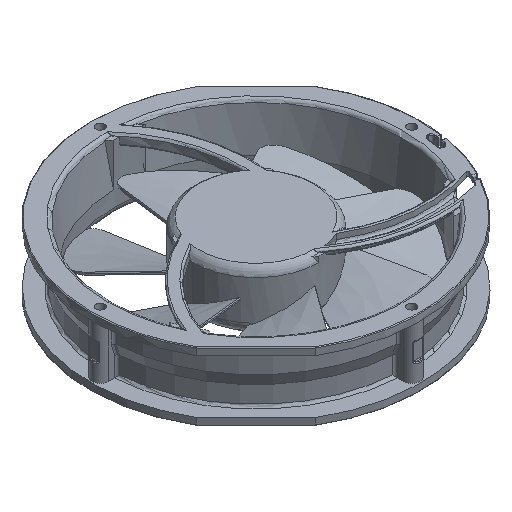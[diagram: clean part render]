
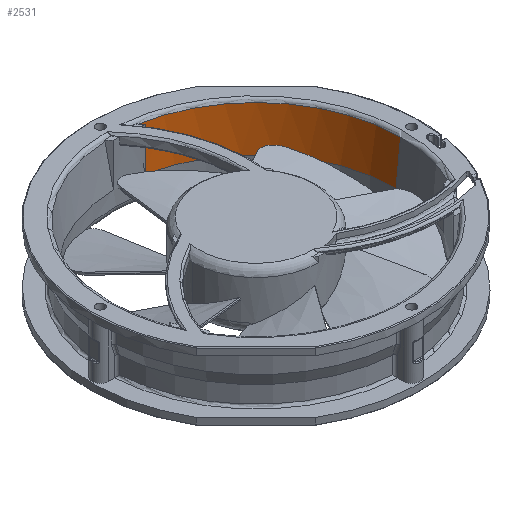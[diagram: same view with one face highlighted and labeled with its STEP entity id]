
A CAD part, isometric view. The second image highlights one B-rep face of the part: STEP entity #2531.
In plain terms, the highlighted conical face has half-angle 6.137 degrees and reference radius 59.5 mm.
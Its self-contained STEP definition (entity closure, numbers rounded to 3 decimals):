
#453 = ORIENTED_EDGE ( 'NONE', *, *, #14375, .T. ) ;
#1153 = DIRECTION ( 'NONE',  ( 1., 0., 0. ) ) ;
#1619 = VERTEX_POINT ( 'NONE', #15081 ) ;
#2531 = ADVANCED_FACE ( 'NONE', ( #14481 ), #6828, .F. ) ;
#3032 = DIRECTION ( 'NONE',  ( 1., 0., 0. ) ) ;
#3511 = CARTESIAN_POINT ( 'NONE',  ( 59.5, 0., 0. ) ) ;
#3607 = CARTESIAN_POINT ( 'NONE',  ( 9.942, 57.893, -7.093 ) ) ;
#4483 = VERTEX_POINT ( 'NONE', #9635 ) ;
#5710 = AXIS2_PLACEMENT_3D ( 'NONE', #6418, #15899, #7781 ) ;
#6187 = ORIENTED_EDGE ( 'NONE', *, *, #10264, .F. ) ;
#6264 = CARTESIAN_POINT ( 'NONE',  ( 10.902, 56.457, -18.6 ) ) ;
#6418 = CARTESIAN_POINT ( 'NONE',  ( 0., 0., -1.34 ) ) ;
#6828 = CONICAL_SURFACE ( 'NONE', #14829, 59.5, 0.107 ) ;
#7390 = DIRECTION ( 'NONE',  ( 0.107, 0., 0.994 ) ) ;
#7781 = DIRECTION ( 'NONE',  ( -1., 0., 0. ) ) ;
#7887 = VERTEX_POINT ( 'NONE', #8582 ) ;
#8582 = CARTESIAN_POINT ( 'NONE',  ( 10.902, 56.457, -18.6 ) ) ;
#8665 = VERTEX_POINT ( 'NONE', #10158 ) ;
#9269 = DIRECTION ( 'NONE',  ( 0., 0., 1. ) ) ;
#9505 = VECTOR ( 'NONE', #7390, 1000. ) ;
#9635 = CARTESIAN_POINT ( 'NONE',  ( 57.5, 0., -18.6 ) ) ;
#9809 = CARTESIAN_POINT ( 'NONE',  ( 0., 0., 0. ) ) ;
#10158 = CARTESIAN_POINT ( 'NONE',  ( 9.438, 58.601, -1.34 ) ) ;
#10264 = EDGE_CURVE ( 'NONE', #7887, #8665, #17128, .T. ) ;
#10383 = CARTESIAN_POINT ( 'NONE',  ( 10.43, 57.178, -12.846 ) ) ;
#11696 = ORIENTED_EDGE ( 'NONE', *, *, #17326, .F. ) ;
#11831 = CIRCLE ( 'NONE', #13262, 57.5 ) ;
#13086 = CARTESIAN_POINT ( 'NONE',  ( 9.438, 58.601, -1.34 ) ) ;
#13197 = ORIENTED_EDGE ( 'NONE', *, *, #17216, .T. ) ;
#13262 = AXIS2_PLACEMENT_3D ( 'NONE', #17379, #9269, #1153 ) ;
#14375 = EDGE_CURVE ( 'NONE', #1619, #8665, #15430, .T. ) ;
#14481 = FACE_OUTER_BOUND ( 'NONE', #15994, .T. ) ;
#14829 = AXIS2_PLACEMENT_3D ( 'NONE', #9809, #16613, #3032 ) ;
#15081 = CARTESIAN_POINT ( 'NONE',  ( 59.356, 0., -1.34 ) ) ;
#15430 = CIRCLE ( 'NONE', #5710, 59.356 ) ;
#15899 = DIRECTION ( 'NONE',  ( 0., 0., 1. ) ) ;
#15994 = EDGE_LOOP ( 'NONE', ( #11696, #13197, #453, #6187 ) ) ;
#16270 = LINE ( 'NONE', #3511, #9505 ) ;
#16613 = DIRECTION ( 'NONE',  ( 0., 0., 1. ) ) ;
#17128 = B_SPLINE_CURVE_WITH_KNOTS ( 'NONE', 3,
 ( #6264, #10383, #3607, #13086 ),
 .UNSPECIFIED., .F., .F.,
 ( 4, 4 ),
 ( 0., 0.017 ),
 .UNSPECIFIED. ) ;
#17216 = EDGE_CURVE ( 'NONE', #4483, #1619, #16270, .T. ) ;
#17326 = EDGE_CURVE ( 'NONE', #4483, #7887, #11831, .T. ) ;
#17379 = CARTESIAN_POINT ( 'NONE',  ( 0., 0., -18.6 ) ) ;
